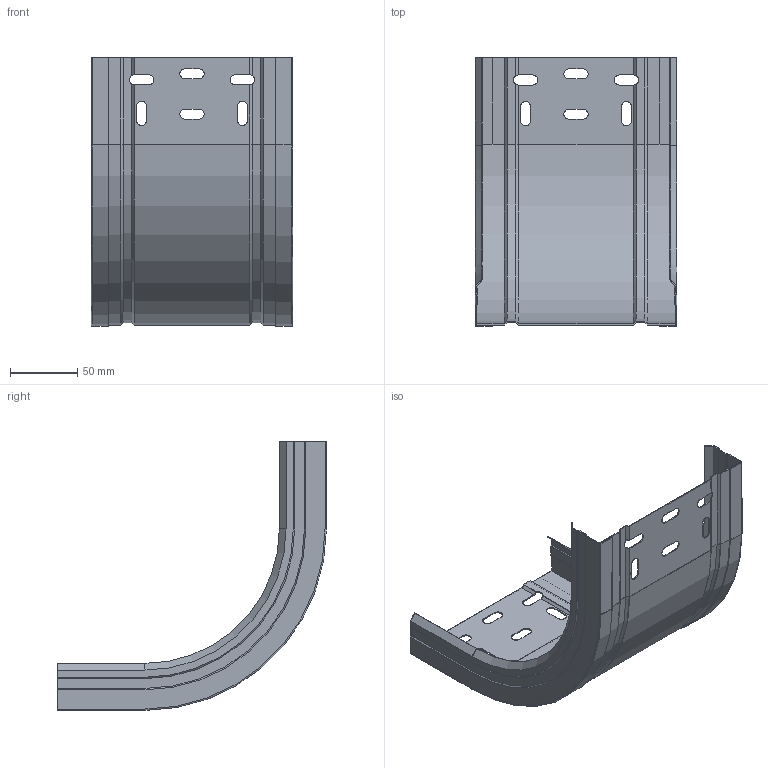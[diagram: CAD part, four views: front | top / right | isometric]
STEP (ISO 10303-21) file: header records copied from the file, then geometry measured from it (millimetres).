
FILE_DESCRIPTION (( 'STEP AP203' ), '1' );
FILE_NAME ('ERE_CONCAVA 150x35.step', '2023-07-27T18:53:23', ( '' ), ( '' ), 'SwSTEP 2.0', 'SolidWorks 2022', '' );
FILE_SCHEMA (( 'CONFIG_CONTROL_DESIGN' ));
Length unit declared in the file: millimetre
Products named in the file (3): ERE_BASE CC_150x35; ERE_LATERAL CC_35; ERE_CONCAVA 150x35
Assembly tree (3 placements, depth 2):
  ERE_CONCAVA 150x35
    ERE_BASE CC_150x35
    ERE_LATERAL CC_35  x2
Bounding box: 150 x 200 x 200 mm (x, y, z)
Volume: 65157.1 mm3; surface area: 165276.9 mm2
Topology: 3 solids, 3 shells, 216 faces, 582 edges, 364 vertices
Faces by surface type: plane 138, cylinder 52, cone 22, torus 4
Entity records: 5671 total; most frequent: CARTESIAN_POINT 978, ORIENTED_EDGE 928, DIRECTION 910, EDGE_CURVE 464, LINE 334, VECTOR 334, VERTEX_POINT 292, AXIS2_PLACEMENT_3D 288
